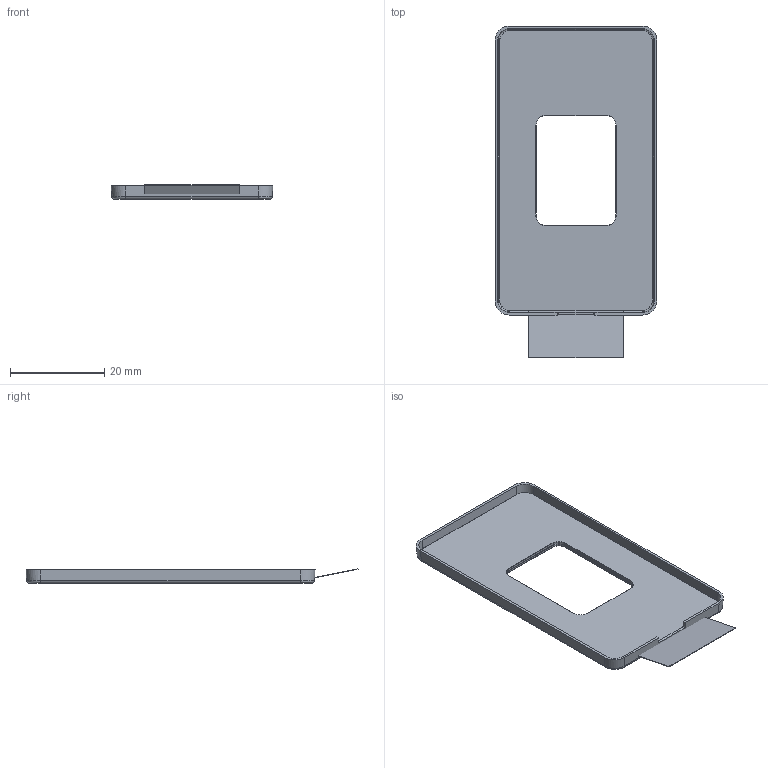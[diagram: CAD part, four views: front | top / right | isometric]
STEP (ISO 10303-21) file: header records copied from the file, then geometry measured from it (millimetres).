
FILE_DESCRIPTION(/* description */ ('Unknown'),/* implementation_level */ '2;1');
FILE_NAME(/* name */ '0040_08_ekey dLine cover TB EG',/* time_stamp */ '2020-12-22T10:20:11+01:00',/* author */ ('Unknown'),/* organization */ ('Unknown'),/* preprocessor_version */ 'ST-DEVELOPER v16.7',/* originating_system */ 'Solid Edge',/* authorisation */ 'Unknown');
FILE_SCHEMA (('AUTOMOTIVE_DESIGN {1 0 10303 214 3 1 1}'));
Length unit declared in the file: millimetre
Products named in the file (4): 0040_08_ekey dLine cover TB EG; 0040_008_ekey dLine cover TB EG; 0040_014_ekey dLine adhesive film TB; 0040_051_Klebefolie_TB Trägerfolie
Assembly tree (3 placements, depth 2):
  0040_08_ekey dLine cover TB EG
    0040_008_ekey dLine cover TB EG
    0040_014_ekey dLine adhesive film TB
    0040_051_Klebefolie_TB Trägerfolie
Bounding box: 34.3 x 70.42 x 3.05 mm (x, y, z)
Volume: 1920.8 mm3; surface area: 10973 mm2
Topology: 3 solids, 3 shells, 179 faces, 467 edges, 302 vertices
Faces by surface type: plane 80, bspline 53, cylinder 42, torus 4
Entity records: 7151 total; most frequent: CARTESIAN_POINT 1995, ORIENTED_EDGE 934, DIRECTION 713, EDGE_CURVE 467, VERTEX_POINT 302, LINE 261, VECTOR 261, AXIS2_PLACEMENT_3D 226
